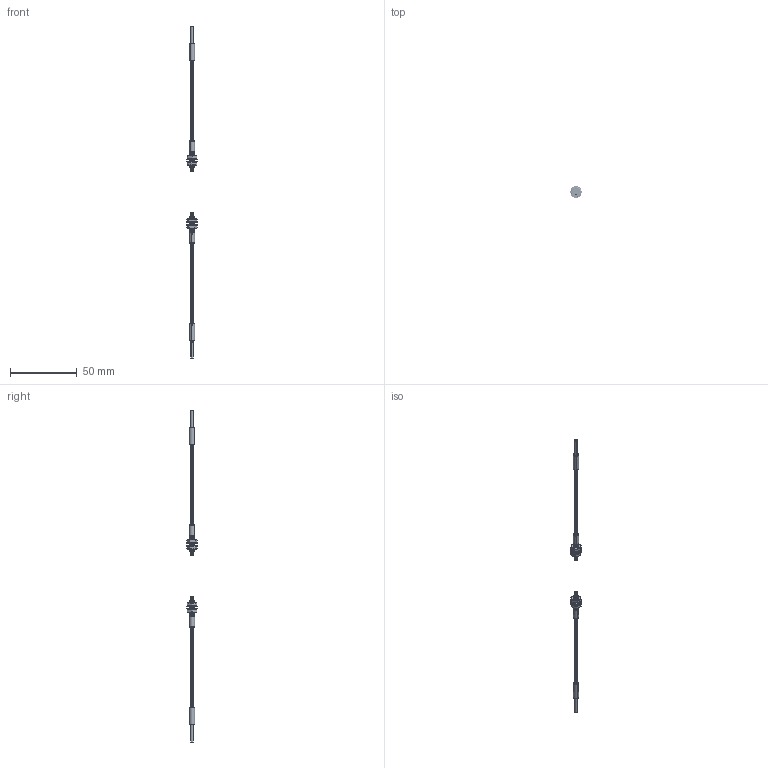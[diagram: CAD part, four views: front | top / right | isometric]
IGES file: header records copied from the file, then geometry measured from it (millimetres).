
Start section: SolidWorks IGES file using analytic representation for surfaces
Bounding box: 8.5 x 8.5 x 248.4 mm (x, y, z)
Surface area: 3497.8 mm2 (no closed solid volume)
Topology: 0 solids, 0 shells, 564 faces, 12276 edges, 12276 vertices
Faces by surface type: revolution 400, bspline 164
